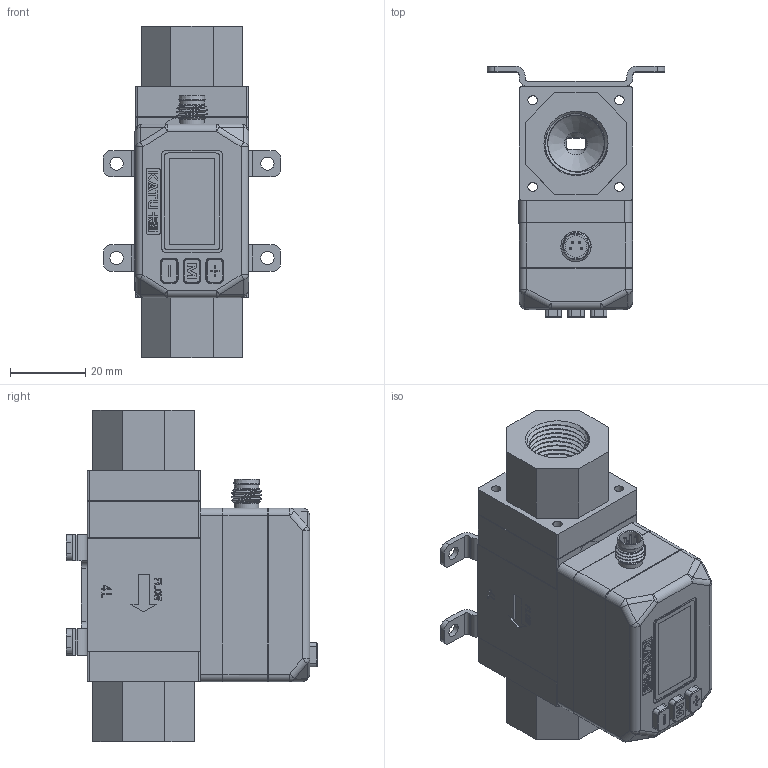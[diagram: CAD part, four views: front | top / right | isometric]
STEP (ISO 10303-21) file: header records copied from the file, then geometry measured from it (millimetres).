
FILE_DESCRIPTION( (''), '2;1');
FILE_NAME( 'QEKJ_4L_R3-8_M12_LED-display_temp-module_bracket.step', '2026-02-27T15:57:50+08:00', (''), (''), '', '', '');
FILE_SCHEMA (('AUTOMOTIVE_DESIGN { 1 0 10303 214 3 1 1 1 }'));
Length unit declared in the file: millimetre
Products named in the file (1): QEKJ 4L_R3-8_M12_LED-display_temp-module_bracket
Bounding box: 47 x 66.6 x 88 mm (x, y, z)
Volume: 82515.7 mm3; surface area: 44349.4 mm2
Topology: 9 solids, 10 shells, 1092 faces, 2883 edges, 1881 vertices
Faces by surface type: plane 666, cylinder 289, cone 50, extrusion 45, sphere 18, torus 16, bspline 8
Full cylindrical faces by diameter (mm): 0.6 x4, 1 x4, 1.5 x4, 1.6 x1, 1.7 x2, 2 x6, 2.05 x4, 2.5 x12, 3 x18, 3.5 x8, 4 x2, 5 x4, 5.8 x1, 6 x3, 6.5 x3, 7.5 x1, 9.5 x3, 12 x3, 12.5 x3
Entity records: 43270 total; most frequent: CARTESIAN_POINT 15924, ORIENTED_EDGE 5346, DIRECTION 5026, EDGE_CURVE 2673, VERTEX_POINT 1813, VECTOR 1692, AXIS2_PLACEMENT_3D 1667, LINE 1647
